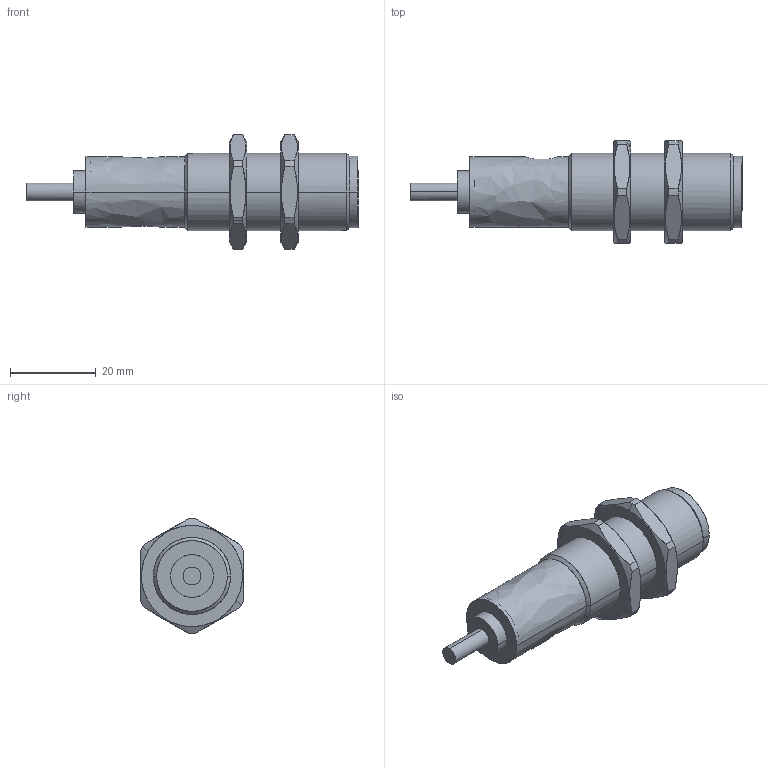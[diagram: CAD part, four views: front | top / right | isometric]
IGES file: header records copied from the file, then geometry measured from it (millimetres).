
Start section: Comment
Global section: file name: CFAK_18xx200.igs; native system:  By UGS Corp.; preprocessor: XPlus GENERIC/IGES 3.0; author: Author; organization: Title; date: 20081106.080027; units: millimetre
Bounding box: 77.5 x 24 x 26.8 mm (x, y, z)
Surface area: 6234.5 mm2 (no closed solid volume)
Topology: 0 solids, 0 shells, 90 faces, 486 edges, 486 vertices
Faces by surface type: bspline 90
